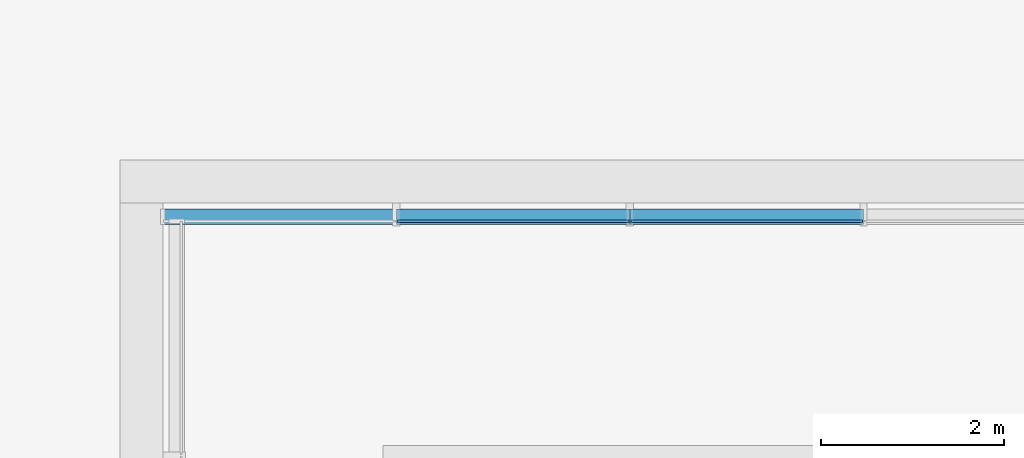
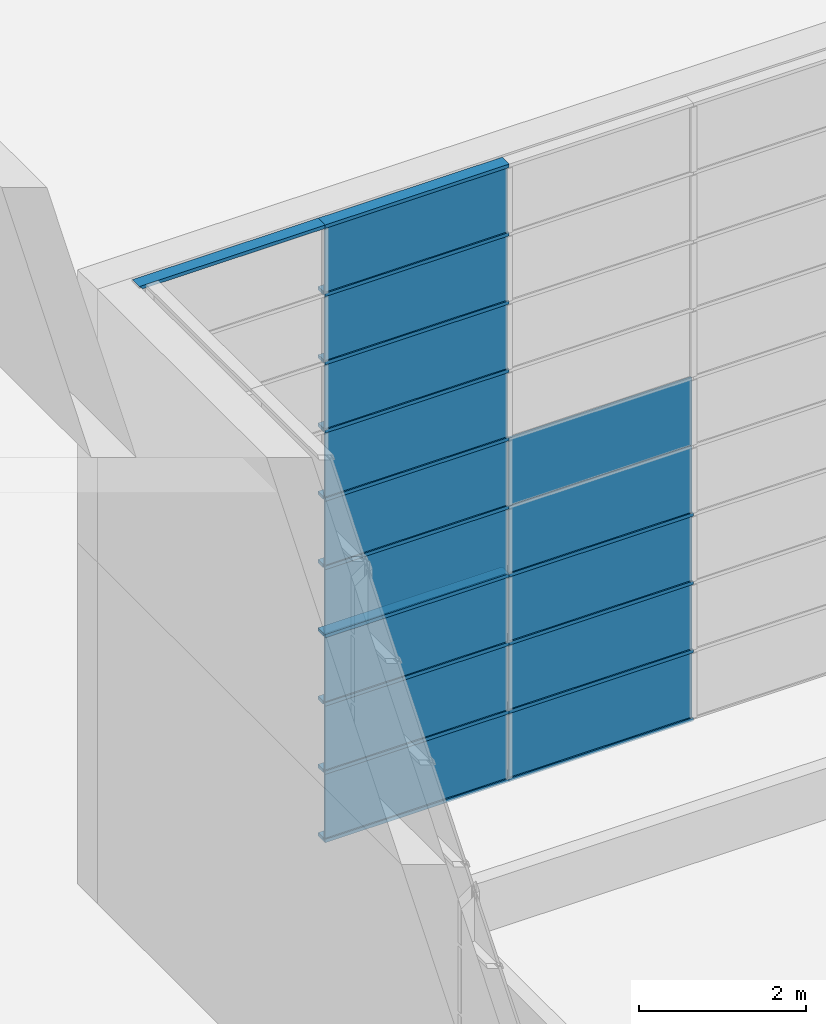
# One storey, part 30 of 105: 31 building element parts, 3 elements without a shape of their own.
"""IFC4 building model written with IfcOpenShell, lengths in millimetres."""

from ifc_helpers import new_model, entity, si_unit, converted_unit, derived_unit, direction, frame, origin_with_axes, place, context, subcontext, project, spatial, triangles, material, element, aggregate, save


model = new_model("IFC4")

# Units and contexts
model_context = context("Model", 3, precision=1e-05, world=origin_with_axes(), true_north=direction((0.0, 1.0)))
body_context = subcontext(model_context, "Body", "Model", "MODEL_VIEW")
ifc_project = project(units=[si_unit("LENGTHUNIT", "METRE", prefix="MILLI"), si_unit("AREAUNIT", "SQUARE_METRE"), si_unit("VOLUMEUNIT", "CUBIC_METRE"), converted_unit("PLANEANGLEUNIT", "DEGREE", entity("IfcLengthMeasure", 0.017453), si_unit("PLANEANGLEUNIT", "RADIAN"), dimensions=[0, 0, 0, 0, 0, 0, 0]), si_unit("SOLIDANGLEUNIT", "STERADIAN"), si_unit("MASSUNIT", "GRAM"), si_unit("TIMEUNIT", "SECOND"), si_unit("THERMODYNAMICTEMPERATUREUNIT", "DEGREE_CELSIUS"), si_unit("LUMINOUSINTENSITYUNIT", "LUMEN"), si_unit("POWERUNIT", "WATT"), derived_unit("THERMALTRANSMITTANCEUNIT", [(si_unit("POWERUNIT", "WATT"), 1), (si_unit("THERMODYNAMICTEMPERATUREUNIT", "KELVIN"), -1), (si_unit("AREAUNIT", "SQUARE_METRE"), -1)])], contexts=[model_context])

# Site, building, storey
site_placement = place(None, origin_with_axes())
site = spatial("IfcSite", under=ifc_project, at=site_placement, Name="Default Site", CompositionType="ELEMENT")
building_placement = place(site_placement, origin_with_axes())
building = spatial("IfcBuilding", under=site, at=building_placement, Name="Default Building", CompositionType="ELEMENT")
storey_placement = place(building_placement, origin_with_axes())
storey = spatial("IfcBuildingStorey", under=building, at=storey_placement, Name="OG - Story", CompositionType="ELEMENT", Elevation=0.0)

# Curtain wall, building element parts
curtain_wall_1_placement = place(storey_placement, origin_with_axes())
curtain_wall_1 = element("IfcCurtainWall", 1, at=curtain_wall_1_placement, inside=storey, Name="Fassade-005", PredefinedType="NOTDEFINED")
ifc_material_1 = material(Name="Normalglas")
building_element_part_1_placement = place(curtain_wall_1_placement, frame((52496.845873, -27789.262838, 3000.0), z_axis=(0.0, 0.0, 1.0), x_axis=(1.0, 0.0, 0.0)))
building_element_part_1 = element("IfcBuildingElementPart", 2, at=building_element_part_1_placement, material=ifc_material_1, Name="Normalglas", PredefinedType="NOTDEFINED", context=body_context, shape_type="Tessellation", body=[
    triangles([(3816.364, 15.0, 995.0), (1285.455, 15.0, 995.0), (1285.455, -14.999, 995.0), (3816.364, -14.999, 995.0), (3816.364, 15.0, 5.0), (1285.455, 15.0, 5.0), (1285.455, -14.999, 5.0), (3816.364, -14.999, 5.0)], [[1, 2, 3], [1, 3, 4], [1, 5, 6], [1, 6, 2], [2, 6, 7], [2, 7, 3], [4, 3, 7], [4, 7, 8], [5, 1, 4], [5, 4, 8], [6, 5, 8], [6, 8, 7]], closed=False),
])
building_element_part_2_placement = place(curtain_wall_1_placement, frame((52496.845873, -27789.262838, 3000.0), z_axis=(0.0, 0.0, 1.0), x_axis=(1.0, 0.0, 0.0)))
building_element_part_2 = element("IfcBuildingElementPart", 3, at=building_element_part_2_placement, material=ifc_material_1, Name="Normalglas", PredefinedType="NOTDEFINED", context=body_context, shape_type="Tessellation", body=[
    triangles([(6367.273, 15.0, 995.0), (3836.364, 15.0, 995.0), (3836.364, -14.999, 995.0), (6367.273, -14.999, 995.0), (6367.273, 15.0, 5.0), (3836.364, 15.0, 5.0), (3836.364, -14.999, 5.0), (6367.273, -14.999, 5.0)], [[1, 2, 3], [1, 3, 4], [1, 5, 6], [1, 6, 2], [2, 6, 7], [2, 7, 3], [4, 3, 7], [4, 7, 8], [5, 1, 4], [5, 4, 8], [6, 5, 8], [6, 8, 7]], closed=False),
])
building_element_part_3_placement = place(curtain_wall_1_placement, frame((52496.845873, -27789.262838, 3000.0), z_axis=(0.0, 0.0, 1.0), x_axis=(1.0, 0.0, 0.0)))
building_element_part_3 = element("IfcBuildingElementPart", 4, at=building_element_part_3_placement, material=ifc_material_1, Name="Normalglas", PredefinedType="NOTDEFINED", context=body_context, shape_type="Tessellation", body=[
    triangles([(3816.364, 15.0, 1995.0), (1285.455, 15.0, 1995.0), (1285.455, -14.999, 1995.0), (3816.364, -14.999, 1995.0), (3816.364, 15.0, 1005.0), (1285.455, 15.0, 1005.0), (1285.455, -14.999, 1005.0), (3816.364, -14.999, 1005.0)], [[1, 2, 3], [1, 3, 4], [1, 5, 6], [1, 6, 2], [2, 6, 7], [2, 7, 3], [4, 3, 7], [4, 7, 8], [5, 1, 4], [5, 4, 8], [6, 5, 8], [6, 8, 7]], closed=False),
])
building_element_part_4_placement = place(curtain_wall_1_placement, frame((52496.845873, -27789.262838, 3000.0), z_axis=(0.0, 0.0, 1.0), x_axis=(1.0, 0.0, 0.0)))
building_element_part_4 = element("IfcBuildingElementPart", 5, at=building_element_part_4_placement, material=ifc_material_1, Name="Normalglas", PredefinedType="NOTDEFINED", context=body_context, shape_type="Tessellation", body=[
    triangles([(6367.273, 15.0, 1995.0), (3836.364, 15.0, 1995.0), (3836.364, -14.999, 1995.0), (6367.273, -14.999, 1995.0), (6367.273, 15.0, 1005.0), (3836.364, 15.0, 1005.0), (3836.364, -14.999, 1005.0), (6367.273, -14.999, 1005.0)], [[1, 2, 3], [1, 3, 4], [1, 5, 6], [1, 6, 2], [2, 6, 7], [2, 7, 3], [4, 3, 7], [4, 7, 8], [5, 1, 4], [5, 4, 8], [6, 5, 8], [6, 8, 7]], closed=False),
])
building_element_part_5_placement = place(curtain_wall_1_placement, frame((52496.845873, -27789.262838, 3000.0), z_axis=(0.0, 0.0, 1.0), x_axis=(1.0, 0.0, 0.0)))
building_element_part_5 = element("IfcBuildingElementPart", 6, at=building_element_part_5_placement, material=ifc_material_1, Name="Normalglas", PredefinedType="NOTDEFINED", context=body_context, shape_type="Tessellation", body=[
    triangles([(3816.364, 15.0, 2995.0), (1285.455, 15.0, 2995.0), (1285.455, -14.999, 2995.0), (3816.364, -14.999, 2995.0), (3816.364, 15.0, 2005.0), (1285.455, 15.0, 2005.0), (1285.455, -14.999, 2005.0), (3816.364, -14.999, 2005.0)], [[1, 2, 3], [1, 3, 4], [1, 5, 6], [1, 6, 2], [2, 6, 7], [2, 7, 3], [4, 3, 7], [4, 7, 8], [5, 1, 4], [5, 4, 8], [6, 5, 8], [6, 8, 7]], closed=False),
])
building_element_part_6_placement = place(curtain_wall_1_placement, frame((52496.845873, -27789.262838, 3000.0), z_axis=(0.0, 0.0, 1.0), x_axis=(1.0, 0.0, 0.0)))
building_element_part_6 = element("IfcBuildingElementPart", 7, at=building_element_part_6_placement, material=ifc_material_1, Name="Normalglas", PredefinedType="NOTDEFINED", context=body_context, shape_type="Tessellation", body=[
    triangles([(6367.273, 15.0, 2995.0), (3836.364, 15.0, 2995.0), (3836.364, -14.999, 2995.0), (6367.273, -14.999, 2995.0), (6367.273, 15.0, 2005.0), (3836.364, 15.0, 2005.0), (3836.364, -14.999, 2005.0), (6367.273, -14.999, 2005.0)], [[1, 2, 3], [1, 3, 4], [1, 5, 6], [1, 6, 2], [2, 6, 7], [2, 7, 3], [4, 3, 7], [4, 7, 8], [5, 1, 4], [5, 4, 8], [6, 5, 8], [6, 8, 7]], closed=False),
])
ifc_material_2 = material(Name="Blech")
building_element_part_7_placement = place(curtain_wall_1_placement, frame((52496.845873, -27789.262838, 3000.0), z_axis=(0.0, 0.0, 1.0), x_axis=(1.0, 0.0, 0.0)))
building_element_part_7 = element("IfcBuildingElementPart", 8, at=building_element_part_7_placement, material=ifc_material_2, Name="Blech", PredefinedType="NOTDEFINED", context=body_context, shape_type="Tessellation", body=[
    triangles([(3826.364, 15.0, 25.0), (3826.364, 133.0, 25.0), (3826.364, 15.0, 5.0), (3826.364, 133.0, -24.999), (3826.364, -14.999, 5.0), (3826.364, -34.999, -24.999), (3826.364, -14.999, 25.0), (3826.364, -34.999, 25.0), (1275.455, 15.0, 5.0), (1275.455, -14.999, 5.0), (1275.455, -14.999, 25.0), (1275.455, -34.999, 25.0), (1275.455, -34.999, -24.999), (1275.455, 133.0, -24.999), (1275.455, 133.0, 25.0), (1275.455, 15.0, 25.0)], [[1, 2, 3], [3, 2, 4], [3, 4, 5], [5, 4, 6], [5, 6, 7], [7, 6, 8], [5, 3, 9], [5, 9, 10], [11, 7, 5], [11, 5, 10], [7, 11, 12], [7, 12, 8], [13, 6, 8], [13, 8, 12], [14, 4, 6], [14, 6, 13], [15, 2, 4], [15, 4, 14], [16, 1, 2], [16, 2, 15], [3, 1, 16], [3, 16, 9], [16, 15, 9], [9, 15, 14], [9, 14, 10], [10, 14, 13], [10, 13, 11], [11, 13, 12]], closed=False),
])
building_element_part_8_placement = place(curtain_wall_1_placement, frame((52496.845873, -27789.262838, 3000.0), z_axis=(0.0, 0.0, 1.0), x_axis=(1.0, 0.0, 0.0)))
building_element_part_8 = element("IfcBuildingElementPart", 9, at=building_element_part_8_placement, material=ifc_material_2, Name="Blech", PredefinedType="NOTDEFINED", context=body_context, shape_type="Tessellation", body=[
    triangles([(6377.273, 15.0, 25.0), (6377.273, 133.0, 25.0), (6377.273, 15.0, 5.0), (6377.273, 133.0, -24.999), (6377.273, -14.999, 5.0), (6377.273, -34.999, -24.999), (6377.273, -14.999, 25.0), (6377.273, -34.999, 25.0), (3826.364, 15.0, 5.0), (3826.364, -14.999, 5.0), (3826.364, -14.999, 25.0), (3826.364, -34.999, 25.0), (3826.364, -34.999, -24.999), (3826.364, 133.0, -24.999), (3826.364, 133.0, 25.0), (3826.364, 15.0, 25.0)], [[1, 2, 3], [3, 2, 4], [3, 4, 5], [5, 4, 6], [5, 6, 7], [7, 6, 8], [5, 3, 9], [5, 9, 10], [11, 7, 5], [11, 5, 10], [7, 11, 12], [7, 12, 8], [13, 6, 8], [13, 8, 12], [14, 4, 6], [14, 6, 13], [15, 2, 4], [15, 4, 14], [16, 1, 2], [16, 2, 15], [3, 1, 16], [3, 16, 9], [16, 15, 9], [9, 15, 14], [9, 14, 10], [10, 14, 13], [10, 13, 11], [11, 13, 12]], closed=False),
])
building_element_part_9_placement = place(curtain_wall_1_placement, frame((52496.845873, -27789.262838, 3000.0), z_axis=(0.0, 0.0, 1.0), x_axis=(1.0, 0.0, 0.0)))
building_element_part_9 = element("IfcBuildingElementPart", 10, at=building_element_part_9_placement, material=ifc_material_2, Name="Blech", PredefinedType="NOTDEFINED", context=body_context, shape_type="Tessellation", body=[
    triangles([(3826.364, 133.0, 1025.0), (3826.364, 15.0, 1025.0), (3826.364, 133.0, 975.0), (3826.364, 15.0, 1005.0), (3826.364, 15.0, 995.0), (3826.364, -14.999, 1005.0), (3826.364, -14.999, 995.0), (3826.364, -14.999, 975.0), (3826.364, -14.999, 1025.0), (3826.364, -34.999, 1025.0), (3826.364, -34.999, 975.0), (3826.364, 15.0, 975.0), (1275.455, 15.0, 995.0), (1275.455, 15.0, 975.0), (1275.455, 133.0, 975.0), (1275.455, 133.0, 1025.0), (1275.455, 15.0, 1025.0), (1275.455, 15.0, 1005.0), (1275.455, -14.999, 1005.0), (1275.455, -14.999, 1025.0), (1275.455, -34.999, 1025.0), (1275.455, -34.999, 975.0), (1275.455, -14.999, 975.0), (1275.455, -14.999, 995.0)], [[1, 2, 3], [3, 2, 4], [3, 4, 5], [5, 4, 6], [5, 6, 7], [8, 9, 10], [8, 10, 11], [3, 5, 12], [12, 5, 13], [12, 13, 14], [12, 14, 15], [12, 15, 3], [1, 3, 15], [1, 15, 16], [2, 1, 16], [2, 16, 17], [2, 17, 18], [2, 18, 4], [4, 18, 19], [4, 19, 6], [9, 6, 19], [9, 19, 20], [20, 21, 10], [20, 10, 9], [11, 10, 21], [11, 21, 22], [23, 8, 11], [23, 11, 22], [7, 8, 23], [7, 23, 24], [5, 7, 24], [5, 24, 13], [15, 14, 16], [16, 14, 13], [16, 13, 18], [18, 13, 24], [18, 24, 19], [20, 23, 22], [20, 22, 21], [16, 18, 17]], closed=False),
])
building_element_part_10_placement = place(curtain_wall_1_placement, frame((52496.845873, -27789.262838, 3000.0), z_axis=(0.0, 0.0, 1.0), x_axis=(1.0, 0.0, 0.0)))
building_element_part_10 = element("IfcBuildingElementPart", 11, at=building_element_part_10_placement, material=ifc_material_2, Name="Blech", PredefinedType="NOTDEFINED", context=body_context, shape_type="Tessellation", body=[
    triangles([(6377.273, 133.0, 1025.0), (6377.273, 15.0, 1025.0), (6377.273, 133.0, 975.0), (6377.273, 15.0, 1005.0), (6377.273, 15.0, 995.0), (6377.273, -14.999, 1005.0), (6377.273, -14.999, 995.0), (6377.273, -14.999, 975.0), (6377.273, -14.999, 1025.0), (6377.273, -34.999, 1025.0), (6377.273, -34.999, 975.0), (6377.273, 15.0, 975.0), (3826.364, 15.0, 995.0), (3826.364, 15.0, 975.0), (3826.364, 133.0, 975.0), (3826.364, 133.0, 1025.0), (3826.364, 15.0, 1025.0), (3826.364, 15.0, 1005.0), (3826.364, -14.999, 1005.0), (3826.364, -14.999, 1025.0), (3826.364, -34.999, 1025.0), (3826.364, -34.999, 975.0), (3826.364, -14.999, 975.0), (3826.364, -14.999, 995.0)], [[1, 2, 3], [3, 2, 4], [3, 4, 5], [5, 4, 6], [5, 6, 7], [8, 9, 10], [8, 10, 11], [3, 5, 12], [12, 5, 13], [12, 13, 14], [12, 14, 15], [12, 15, 3], [1, 3, 15], [1, 15, 16], [2, 1, 16], [2, 16, 17], [2, 17, 18], [2, 18, 4], [4, 18, 19], [4, 19, 6], [9, 6, 19], [9, 19, 20], [20, 21, 10], [20, 10, 9], [11, 10, 21], [11, 21, 22], [23, 8, 11], [23, 11, 22], [7, 8, 23], [7, 23, 24], [5, 7, 24], [5, 24, 13], [15, 14, 16], [16, 14, 13], [16, 13, 18], [18, 13, 24], [18, 24, 19], [20, 23, 22], [20, 22, 21], [16, 18, 17]], closed=False),
])
building_element_part_11_placement = place(curtain_wall_1_placement, frame((52496.845873, -27789.262838, 3000.0), z_axis=(0.0, 0.0, 1.0), x_axis=(1.0, 0.0, 0.0)))
building_element_part_11 = element("IfcBuildingElementPart", 12, at=building_element_part_11_placement, material=ifc_material_2, Name="Blech", PredefinedType="NOTDEFINED", context=body_context, shape_type="Tessellation", body=[
    triangles([(3826.364, 133.0, 2025.0), (3826.364, 15.0, 2025.0), (3826.364, 133.0, 1975.0), (3826.364, 15.0, 2005.0), (3826.364, 15.0, 1995.0), (3826.364, -14.999, 2005.0), (3826.364, -14.999, 1995.0), (3826.364, -14.999, 1975.0), (3826.364, -14.999, 2025.0), (3826.364, -34.999, 2025.0), (3826.364, -34.999, 1975.0), (3826.364, 15.0, 1975.0), (1275.455, 15.0, 1995.0), (1275.455, 15.0, 1975.0), (1275.455, 133.0, 1975.0), (1275.455, 133.0, 2025.0), (1275.455, 15.0, 2025.0), (1275.455, 15.0, 2005.0), (1275.455, -14.999, 2005.0), (1275.455, -14.999, 2025.0), (1275.455, -34.999, 2025.0), (1275.455, -34.999, 1975.0), (1275.455, -14.999, 1975.0), (1275.455, -14.999, 1995.0)], [[1, 2, 3], [3, 2, 4], [3, 4, 5], [5, 4, 6], [5, 6, 7], [8, 9, 10], [8, 10, 11], [3, 5, 12], [12, 5, 13], [12, 13, 14], [12, 14, 15], [12, 15, 3], [1, 3, 15], [1, 15, 16], [2, 1, 16], [2, 16, 17], [2, 17, 18], [2, 18, 4], [4, 18, 19], [4, 19, 6], [9, 6, 19], [9, 19, 20], [20, 21, 10], [20, 10, 9], [11, 10, 21], [11, 21, 22], [23, 8, 11], [23, 11, 22], [7, 8, 23], [7, 23, 24], [5, 7, 24], [5, 24, 13], [15, 14, 16], [16, 14, 13], [16, 13, 18], [18, 13, 24], [18, 24, 19], [20, 23, 22], [20, 22, 21], [16, 18, 17]], closed=False),
])
building_element_part_12_placement = place(curtain_wall_1_placement, frame((52496.845873, -27789.262838, 3000.0), z_axis=(0.0, 0.0, 1.0), x_axis=(1.0, 0.0, 0.0)))
building_element_part_12 = element("IfcBuildingElementPart", 13, at=building_element_part_12_placement, material=ifc_material_2, Name="Blech", PredefinedType="NOTDEFINED", context=body_context, shape_type="Tessellation", body=[
    triangles([(3826.364, 15.0, 2975.0), (3826.364, 133.0, 2975.0), (3826.364, 15.0, 2995.0), (3826.364, 133.0, 3025.0), (3826.364, -14.999, 2995.0), (3826.364, -34.999, 3025.0), (3826.364, -14.999, 2975.0), (3826.364, -34.999, 2975.0), (1275.455, 15.0, 2995.0), (1275.455, 15.0, 2975.0), (1275.455, 133.0, 2975.0), (1275.455, 133.0, 3025.0), (1275.455, -34.999, 3025.0), (1275.455, -34.999, 2975.0), (1275.455, -14.999, 2975.0), (1275.455, -14.999, 2995.0)], [[1, 2, 3], [3, 2, 4], [3, 4, 5], [5, 4, 6], [5, 6, 7], [7, 6, 8], [3, 9, 10], [3, 10, 1], [10, 11, 2], [10, 2, 1], [11, 12, 4], [11, 4, 2], [12, 13, 6], [12, 6, 4], [13, 14, 8], [13, 8, 6], [7, 8, 14], [7, 14, 15], [15, 16, 5], [15, 5, 7], [5, 16, 9], [5, 9, 3], [10, 11, 9], [9, 11, 12], [9, 12, 16], [16, 12, 13], [16, 13, 15], [15, 13, 14]], closed=False),
])
building_element_part_13_placement = place(curtain_wall_1_placement, frame((52496.845873, -27789.262838, 3000.0), z_axis=(0.0, 0.0, 1.0), x_axis=(1.0, 0.0, 0.0)))
building_element_part_13 = element("IfcBuildingElementPart", 14, at=building_element_part_13_placement, material=ifc_material_2, Name="Blech", PredefinedType="NOTDEFINED", context=body_context, shape_type="Tessellation", body=[
    triangles([(6377.273, 133.0, 2025.0), (6377.273, 15.0, 2025.0), (6377.273, 133.0, 1975.0), (6377.273, 15.0, 2005.0), (6377.273, 15.0, 1995.0), (6377.273, -14.999, 2005.0), (6377.273, -14.999, 1995.0), (6377.273, -14.999, 1975.0), (6377.273, -14.999, 2025.0), (6377.273, -34.999, 2025.0), (6377.273, -34.999, 1975.0), (6377.273, 15.0, 1975.0), (3826.364, 15.0, 1995.0), (3826.364, 15.0, 1975.0), (3826.364, 133.0, 1975.0), (3826.364, 133.0, 2025.0), (3826.364, 15.0, 2025.0), (3826.364, 15.0, 2005.0), (3826.364, -14.999, 2005.0), (3826.364, -14.999, 2025.0), (3826.364, -34.999, 2025.0), (3826.364, -34.999, 1975.0), (3826.364, -14.999, 1975.0), (3826.364, -14.999, 1995.0)], [[1, 2, 3], [3, 2, 4], [3, 4, 5], [5, 4, 6], [5, 6, 7], [8, 9, 10], [8, 10, 11], [3, 5, 12], [12, 5, 13], [12, 13, 14], [12, 14, 15], [12, 15, 3], [1, 3, 15], [1, 15, 16], [2, 1, 16], [2, 16, 17], [2, 17, 18], [2, 18, 4], [4, 18, 19], [4, 19, 6], [9, 6, 19], [9, 19, 20], [20, 21, 10], [20, 10, 9], [11, 10, 21], [11, 21, 22], [23, 8, 11], [23, 11, 22], [7, 8, 23], [7, 23, 24], [5, 7, 24], [5, 24, 13], [15, 14, 16], [16, 14, 13], [16, 13, 18], [18, 13, 24], [18, 24, 19], [20, 23, 22], [20, 22, 21], [16, 18, 17]], closed=False),
])
building_element_part_14_placement = place(curtain_wall_1_placement, frame((52496.845873, -27789.262838, 3000.0), z_axis=(0.0, 0.0, 1.0), x_axis=(1.0, 0.0, 0.0)))
building_element_part_14 = element("IfcBuildingElementPart", 15, at=building_element_part_14_placement, material=ifc_material_2, Name="Blech", PredefinedType="NOTDEFINED", context=body_context, shape_type="Tessellation", body=[
    triangles([(6377.273, 15.0, 2975.0), (6377.273, 133.0, 2975.0), (6377.273, 15.0, 2995.0), (6377.273, 133.0, 3025.0), (6377.273, -14.999, 2995.0), (6377.273, -34.999, 3025.0), (6377.273, -14.999, 2975.0), (6377.273, -34.999, 2975.0), (3826.364, 15.0, 2995.0), (3826.364, 15.0, 2975.0), (3826.364, 133.0, 2975.0), (3826.364, 133.0, 3025.0), (3826.364, -34.999, 3025.0), (3826.364, -34.999, 2975.0), (3826.364, -14.999, 2975.0), (3826.364, -14.999, 2995.0)], [[1, 2, 3], [3, 2, 4], [3, 4, 5], [5, 4, 6], [5, 6, 7], [7, 6, 8], [3, 9, 10], [3, 10, 1], [10, 11, 2], [10, 2, 1], [11, 12, 4], [11, 4, 2], [12, 13, 6], [12, 6, 4], [13, 14, 8], [13, 8, 6], [7, 8, 14], [7, 14, 15], [15, 16, 5], [15, 5, 7], [5, 16, 9], [5, 9, 3], [10, 11, 9], [9, 11, 12], [9, 12, 16], [16, 12, 13], [16, 13, 15], [15, 13, 14]], closed=False),
])
aggregate(curtain_wall_1, [building_element_part_1, building_element_part_2, building_element_part_3, building_element_part_4, building_element_part_5, building_element_part_6, building_element_part_7, building_element_part_8, building_element_part_9, building_element_part_10, building_element_part_11, building_element_part_12, building_element_part_13, building_element_part_14])

curtain_wall_2_placement = place(storey_placement, origin_with_axes())
curtain_wall_2 = element("IfcCurtainWall", 16, at=curtain_wall_2_placement, inside=storey, Name="Fassade-005", PredefinedType="NOTDEFINED")
building_element_part_15_placement = place(curtain_wall_2_placement, frame((52496.845873, -27789.262838, 6000.0), z_axis=(0.0, 0.0, 1.0), x_axis=(1.0, 0.0, 0.0)))
building_element_part_15 = element("IfcBuildingElementPart", 17, at=building_element_part_15_placement, material=ifc_material_1, Name="Normalglas", PredefinedType="NOTDEFINED", context=body_context, shape_type="Tessellation", body=[
    triangles([(3816.364, 15.0, 995.0), (1285.455, 15.0, 995.0), (1285.455, -14.999, 995.0), (3816.364, -14.999, 995.0), (3816.364, 15.0, 5.0), (1285.455, 15.0, 5.0), (1285.455, -14.999, 5.0), (3816.364, -14.999, 5.0)], [[1, 2, 3], [1, 3, 4], [1, 5, 6], [1, 6, 2], [2, 6, 7], [2, 7, 3], [4, 3, 7], [4, 7, 8], [5, 1, 4], [5, 4, 8], [6, 5, 8], [6, 8, 7]], closed=False),
])
building_element_part_16_placement = place(curtain_wall_2_placement, frame((52496.845873, -27789.262838, 6000.0), z_axis=(0.0, 0.0, 1.0), x_axis=(1.0, 0.0, 0.0)))
building_element_part_16 = element("IfcBuildingElementPart", 18, at=building_element_part_16_placement, material=ifc_material_1, Name="Normalglas", PredefinedType="NOTDEFINED", context=body_context, shape_type="Tessellation", body=[
    triangles([(6367.273, 15.0, 995.0), (3836.364, 15.0, 995.0), (3836.364, -14.999, 995.0), (6367.273, -14.999, 995.0), (6367.273, 15.0, 5.0), (3836.364, 15.0, 5.0), (3836.364, -14.999, 5.0), (6367.273, -14.999, 5.0)], [[1, 2, 3], [1, 3, 4], [1, 5, 6], [1, 6, 2], [2, 6, 7], [2, 7, 3], [4, 3, 7], [4, 7, 8], [5, 1, 4], [5, 4, 8], [6, 5, 8], [6, 8, 7]], closed=False),
])
building_element_part_17_placement = place(curtain_wall_2_placement, frame((52496.845873, -27789.262838, 6000.0), z_axis=(0.0, 0.0, 1.0), x_axis=(1.0, 0.0, 0.0)))
building_element_part_17 = element("IfcBuildingElementPart", 19, at=building_element_part_17_placement, material=ifc_material_1, Name="Normalglas", PredefinedType="NOTDEFINED", context=body_context, shape_type="Tessellation", body=[
    triangles([(3816.364, 15.0, 1995.0), (1285.455, 15.0, 1995.0), (1285.455, -14.999, 1995.0), (3816.364, -14.999, 1995.0), (3816.364, 15.0, 1005.0), (1285.455, 15.0, 1005.0), (1285.455, -14.999, 1005.0), (3816.364, -14.999, 1005.0)], [[1, 2, 3], [1, 3, 4], [1, 5, 6], [1, 6, 2], [2, 6, 7], [2, 7, 3], [4, 3, 7], [4, 7, 8], [5, 1, 4], [5, 4, 8], [6, 5, 8], [6, 8, 7]], closed=False),
])
building_element_part_18_placement = place(curtain_wall_2_placement, frame((52496.845873, -27789.262838, 6000.0), z_axis=(0.0, 0.0, 1.0), x_axis=(1.0, 0.0, 0.0)))
building_element_part_18 = element("IfcBuildingElementPart", 20, at=building_element_part_18_placement, material=ifc_material_1, Name="Normalglas", PredefinedType="NOTDEFINED", context=body_context, shape_type="Tessellation", body=[
    triangles([(6367.273, 15.0, 1995.0), (3836.364, 15.0, 1995.0), (3836.364, -14.999, 1995.0), (6367.273, -14.999, 1995.0), (6367.273, 15.0, 1005.0), (3836.364, 15.0, 1005.0), (3836.364, -14.999, 1005.0), (6367.273, -14.999, 1005.0)], [[1, 2, 3], [1, 3, 4], [1, 5, 6], [1, 6, 2], [2, 6, 7], [2, 7, 3], [4, 3, 7], [4, 7, 8], [5, 1, 4], [5, 4, 8], [6, 5, 8], [6, 8, 7]], closed=False),
])
building_element_part_19_placement = place(curtain_wall_2_placement, frame((52496.845873, -27789.262838, 6000.0), z_axis=(0.0, 0.0, 1.0), x_axis=(1.0, 0.0, 0.0)))
building_element_part_19 = element("IfcBuildingElementPart", 21, at=building_element_part_19_placement, material=ifc_material_1, Name="Normalglas", PredefinedType="NOTDEFINED", context=body_context, shape_type="Tessellation", body=[
    triangles([(3816.364, 15.0, 2995.0), (1285.455, 15.0, 2995.0), (1285.455, -14.999, 2995.0), (3816.364, -14.999, 2995.0), (3816.364, 15.0, 2005.0), (1285.455, 15.0, 2005.0), (1285.455, -14.999, 2005.0), (3816.364, -14.999, 2005.0)], [[1, 2, 3], [1, 3, 4], [1, 5, 6], [1, 6, 2], [2, 6, 7], [2, 7, 3], [4, 3, 7], [4, 7, 8], [5, 1, 4], [5, 4, 8], [6, 5, 8], [6, 8, 7]], closed=False),
])
building_element_part_20_placement = place(curtain_wall_2_placement, frame((52496.845873, -27789.262838, 6000.0), z_axis=(0.0, 0.0, 1.0), x_axis=(1.0, 0.0, 0.0)))
building_element_part_20 = element("IfcBuildingElementPart", 22, at=building_element_part_20_placement, material=ifc_material_2, Name="Blech", PredefinedType="NOTDEFINED", context=body_context, shape_type="Tessellation", body=[
    triangles([(3826.364, 15.0, 25.0), (3826.364, 133.0, 25.0), (3826.364, 15.0, 5.0), (3826.364, 133.0, -24.999), (3826.364, -14.999, 5.0), (3826.364, -34.999, -24.999), (3826.364, -14.999, 25.0), (3826.364, -34.999, 25.0), (1275.455, 15.0, 5.0), (1275.455, -14.999, 5.0), (1275.455, -14.999, 25.0), (1275.455, -34.999, 25.0), (1275.455, -34.999, -24.999), (1275.455, 133.0, -24.999), (1275.455, 133.0, 25.0), (1275.455, 15.0, 25.0)], [[1, 2, 3], [3, 2, 4], [3, 4, 5], [5, 4, 6], [5, 6, 7], [7, 6, 8], [5, 3, 9], [5, 9, 10], [11, 7, 5], [11, 5, 10], [7, 11, 12], [7, 12, 8], [13, 6, 8], [13, 8, 12], [14, 4, 6], [14, 6, 13], [15, 2, 4], [15, 4, 14], [16, 1, 2], [16, 2, 15], [3, 1, 16], [3, 16, 9], [16, 15, 9], [9, 15, 14], [9, 14, 10], [10, 14, 13], [10, 13, 11], [11, 13, 12]], closed=False),
])
building_element_part_21_placement = place(curtain_wall_2_placement, frame((52496.845873, -27789.262838, 6000.0), z_axis=(0.0, 0.0, 1.0), x_axis=(1.0, 0.0, 0.0)))
building_element_part_21 = element("IfcBuildingElementPart", 23, at=building_element_part_21_placement, material=ifc_material_2, Name="Blech", PredefinedType="NOTDEFINED", context=body_context, shape_type="Tessellation", body=[
    triangles([(3826.364, 133.0, 1025.0), (3826.364, 15.0, 1025.0), (3826.364, 133.0, 975.0), (3826.364, 15.0, 1005.0), (3826.364, 15.0, 995.0), (3826.364, -14.999, 1005.0), (3826.364, -14.999, 995.0), (3826.364, -14.999, 975.0), (3826.364, -14.999, 1025.0), (3826.364, -34.999, 1025.0), (3826.364, -34.999, 975.0), (3826.364, 15.0, 975.0), (1275.455, 15.0, 995.0), (1275.455, 15.0, 975.0), (1275.455, 133.0, 975.0), (1275.455, 133.0, 1025.0), (1275.455, 15.0, 1025.0), (1275.455, 15.0, 1005.0), (1275.455, -14.999, 1005.0), (1275.455, -14.999, 1025.0), (1275.455, -34.999, 1025.0), (1275.455, -34.999, 975.0), (1275.455, -14.999, 975.0), (1275.455, -14.999, 995.0)], [[1, 2, 3], [3, 2, 4], [3, 4, 5], [5, 4, 6], [5, 6, 7], [8, 9, 10], [8, 10, 11], [3, 5, 12], [12, 5, 13], [12, 13, 14], [12, 14, 15], [12, 15, 3], [1, 3, 15], [1, 15, 16], [2, 1, 16], [2, 16, 17], [2, 17, 18], [2, 18, 4], [4, 18, 19], [4, 19, 6], [9, 6, 19], [9, 19, 20], [20, 21, 10], [20, 10, 9], [11, 10, 21], [11, 21, 22], [23, 8, 11], [23, 11, 22], [7, 8, 23], [7, 23, 24], [5, 7, 24], [5, 24, 13], [15, 14, 16], [16, 14, 13], [16, 13, 18], [18, 13, 24], [18, 24, 19], [20, 23, 22], [20, 22, 21], [16, 18, 17]], closed=False),
])
building_element_part_22_placement = place(curtain_wall_2_placement, frame((52496.845873, -27789.262838, 6000.0), z_axis=(0.0, 0.0, 1.0), x_axis=(1.0, 0.0, 0.0)))
building_element_part_22 = element("IfcBuildingElementPart", 24, at=building_element_part_22_placement, material=ifc_material_2, Name="Blech", PredefinedType="NOTDEFINED", context=body_context, shape_type="Tessellation", body=[
    triangles([(3826.364, 133.0, 2025.0), (3826.364, 15.0, 2025.0), (3826.364, 133.0, 1975.0), (3826.364, 15.0, 2005.0), (3826.364, 15.0, 1995.0), (3826.364, -14.999, 2005.0), (3826.364, -14.999, 1995.0), (3826.364, -14.999, 1975.0), (3826.364, -14.999, 2025.0), (3826.364, -34.999, 2025.0), (3826.364, -34.999, 1975.0), (3826.364, 15.0, 1975.0), (1275.455, 15.0, 1995.0), (1275.455, 15.0, 1975.0), (1275.455, 133.0, 1975.0), (1275.455, 133.0, 2025.0), (1275.455, 15.0, 2025.0), (1275.455, 15.0, 2005.0), (1275.455, -14.999, 2005.0), (1275.455, -14.999, 2025.0), (1275.455, -34.999, 2025.0), (1275.455, -34.999, 1975.0), (1275.455, -14.999, 1975.0), (1275.455, -14.999, 1995.0)], [[1, 2, 3], [3, 2, 4], [3, 4, 5], [5, 4, 6], [5, 6, 7], [8, 9, 10], [8, 10, 11], [3, 5, 12], [12, 5, 13], [12, 13, 14], [12, 14, 15], [12, 15, 3], [1, 3, 15], [1, 15, 16], [2, 1, 16], [2, 16, 17], [2, 17, 18], [2, 18, 4], [4, 18, 19], [4, 19, 6], [9, 6, 19], [9, 19, 20], [20, 21, 10], [20, 10, 9], [11, 10, 21], [11, 21, 22], [23, 8, 11], [23, 11, 22], [7, 8, 23], [7, 23, 24], [5, 7, 24], [5, 24, 13], [15, 14, 16], [16, 14, 13], [16, 13, 18], [18, 13, 24], [18, 24, 19], [20, 23, 22], [20, 22, 21], [16, 18, 17]], closed=False),
])
building_element_part_23_placement = place(curtain_wall_2_placement, frame((52496.845873, -27789.262838, 6000.0), z_axis=(0.0, 0.0, 1.0), x_axis=(1.0, 0.0, 0.0)))
building_element_part_23 = element("IfcBuildingElementPart", 25, at=building_element_part_23_placement, material=ifc_material_2, Name="Blech", PredefinedType="NOTDEFINED", context=body_context, shape_type="Tessellation", body=[
    triangles([(3826.364, 15.0, 2975.0), (3826.364, 133.0, 2975.0), (3826.364, 15.0, 2995.0), (3826.364, 133.0, 3025.0), (3826.364, -14.999, 2995.0), (3826.364, -34.999, 3025.0), (3826.364, -14.999, 2975.0), (3826.364, -34.999, 2975.0), (1275.455, 15.0, 2995.0), (1275.455, 15.0, 2975.0), (1275.455, 133.0, 2975.0), (1275.455, 133.0, 3025.0), (1275.455, -34.999, 3025.0), (1275.455, -34.999, 2975.0), (1275.455, -14.999, 2975.0), (1275.455, -14.999, 2995.0)], [[1, 2, 3], [3, 2, 4], [3, 4, 5], [5, 4, 6], [5, 6, 7], [7, 6, 8], [3, 9, 10], [3, 10, 1], [10, 11, 2], [10, 2, 1], [11, 12, 4], [11, 4, 2], [12, 13, 6], [12, 6, 4], [13, 14, 8], [13, 8, 6], [7, 8, 14], [7, 14, 15], [15, 16, 5], [15, 5, 7], [5, 16, 9], [5, 9, 3], [10, 11, 9], [9, 11, 12], [9, 12, 16], [16, 12, 13], [16, 13, 15], [15, 13, 14]], closed=False),
])
aggregate(curtain_wall_2, [building_element_part_15, building_element_part_16, building_element_part_17, building_element_part_18, building_element_part_19, building_element_part_20, building_element_part_21, building_element_part_22, building_element_part_23])

curtain_wall_3_placement = place(storey_placement, origin_with_axes())
curtain_wall_3 = element("IfcCurtainWall", 26, at=curtain_wall_3_placement, inside=storey, Name="Fassade-005", PredefinedType="NOTDEFINED")
building_element_part_24_placement = place(curtain_wall_3_placement, frame((52496.845873, -27789.262838, 9000.0), z_axis=(0.0, 0.0, 1.0), x_axis=(1.0, 0.0, 0.0)))
building_element_part_24 = element("IfcBuildingElementPart", 27, at=building_element_part_24_placement, material=ifc_material_1, Name="Normalglas", PredefinedType="NOTDEFINED", context=body_context, shape_type="Tessellation", body=[
    triangles([(3816.364, 15.0, 995.0), (1285.455, 15.0, 995.0), (1285.455, -14.999, 995.0), (3816.364, -14.999, 995.0), (3816.364, 15.0, 5.0), (1285.455, 15.0, 5.0), (1285.455, -14.999, 5.0), (3816.364, -14.999, 5.0)], [[1, 2, 3], [1, 3, 4], [1, 5, 6], [1, 6, 2], [2, 6, 7], [2, 7, 3], [4, 3, 7], [4, 7, 8], [5, 1, 4], [5, 4, 8], [6, 5, 8], [6, 8, 7]], closed=False),
])
building_element_part_25_placement = place(curtain_wall_3_placement, frame((52496.845873, -27789.262838, 9000.0), z_axis=(0.0, 0.0, 1.0), x_axis=(1.0, 0.0, 0.0)))
building_element_part_25 = element("IfcBuildingElementPart", 28, at=building_element_part_25_placement, material=ifc_material_1, Name="Normalglas", PredefinedType="NOTDEFINED", context=body_context, shape_type="Tessellation", body=[
    triangles([(3816.364, 15.0, 1995.0), (1285.455, 15.0, 1995.0), (1285.455, -14.999, 1995.0), (3816.364, -14.999, 1995.0), (3816.364, 15.0, 1005.0), (1285.455, 15.0, 1005.0), (1285.455, -14.999, 1005.0), (3816.364, -14.999, 1005.0)], [[1, 2, 3], [1, 3, 4], [1, 5, 6], [1, 6, 2], [2, 6, 7], [2, 7, 3], [4, 3, 7], [4, 7, 8], [5, 1, 4], [5, 4, 8], [6, 5, 8], [6, 8, 7]], closed=False),
])
building_element_part_26_placement = place(curtain_wall_3_placement, frame((52496.845873, -27789.262838, 9000.0), z_axis=(0.0, 0.0, 1.0), x_axis=(1.0, 0.0, 0.0)))
building_element_part_26 = element("IfcBuildingElementPart", 29, at=building_element_part_26_placement, material=ifc_material_1, Name="Normalglas", PredefinedType="NOTDEFINED", context=body_context, shape_type="Tessellation", body=[
    triangles([(3816.364, 15.0, 2995.0), (1285.455, 15.0, 2995.0), (1285.455, -14.999, 2995.0), (3816.364, -14.999, 2995.0), (3816.364, 15.0, 2005.0), (1285.455, 15.0, 2005.0), (1285.455, -14.999, 2005.0), (3816.364, -14.999, 2005.0)], [[1, 2, 3], [1, 3, 4], [1, 5, 6], [1, 6, 2], [2, 6, 7], [2, 7, 3], [4, 3, 7], [4, 7, 8], [5, 1, 4], [5, 4, 8], [6, 5, 8], [6, 8, 7]], closed=False),
])
building_element_part_27_placement = place(curtain_wall_3_placement, frame((52496.845873, -27789.262838, 9000.0), z_axis=(0.0, 0.0, 1.0), x_axis=(1.0, 0.0, 0.0)))
building_element_part_27 = element("IfcBuildingElementPart", 30, at=building_element_part_27_placement, material=ifc_material_2, Name="Blech", PredefinedType="NOTDEFINED", context=body_context, shape_type="Tessellation", body=[
    triangles([(3826.364, 15.0, 25.0), (3826.364, 133.0, 25.0), (3826.364, 15.0, 5.0), (3826.364, 133.0, -24.999), (3826.364, -14.999, 5.0), (3826.364, -34.999, -24.999), (3826.364, -14.999, 25.0), (3826.364, -34.999, 25.0), (1275.455, 15.0, 5.0), (1275.455, -14.999, 5.0), (1275.455, -14.999, 25.0), (1275.455, -34.999, 25.0), (1275.455, -34.999, -24.999), (1275.455, 133.0, -24.999), (1275.455, 133.0, 25.0), (1275.455, 15.0, 25.0)], [[1, 2, 3], [3, 2, 4], [3, 4, 5], [5, 4, 6], [5, 6, 7], [7, 6, 8], [5, 3, 9], [5, 9, 10], [11, 7, 5], [11, 5, 10], [7, 11, 12], [7, 12, 8], [13, 6, 8], [13, 8, 12], [14, 4, 6], [14, 6, 13], [15, 2, 4], [15, 4, 14], [16, 1, 2], [16, 2, 15], [3, 1, 16], [3, 16, 9], [16, 15, 9], [9, 15, 14], [9, 14, 10], [10, 14, 13], [10, 13, 11], [11, 13, 12]], closed=False),
])
building_element_part_28_placement = place(curtain_wall_3_placement, frame((52496.845873, -27789.262838, 9000.0), z_axis=(0.0, 0.0, 1.0), x_axis=(1.0, 0.0, 0.0)))
building_element_part_28 = element("IfcBuildingElementPart", 31, at=building_element_part_28_placement, material=ifc_material_2, Name="Blech", PredefinedType="NOTDEFINED", context=body_context, shape_type="Tessellation", body=[
    triangles([(3826.364, 133.0, 1025.0), (3826.364, 15.0, 1025.0), (3826.364, 133.0, 975.0), (3826.364, 15.0, 1005.0), (3826.364, 15.0, 995.0), (3826.364, -14.999, 1005.0), (3826.364, -14.999, 995.0), (3826.364, -14.999, 975.0), (3826.364, -14.999, 1025.0), (3826.364, -34.999, 1025.0), (3826.364, -34.999, 975.0), (3826.364, 15.0, 975.0), (1275.455, 15.0, 995.0), (1275.455, 15.0, 975.0), (1275.455, 133.0, 975.0), (1275.455, 133.0, 1025.0), (1275.455, 15.0, 1025.0), (1275.455, 15.0, 1005.0), (1275.455, -14.999, 1005.0), (1275.455, -14.999, 1025.0), (1275.455, -34.999, 1025.0), (1275.455, -34.999, 975.0), (1275.455, -14.999, 975.0), (1275.455, -14.999, 995.0)], [[1, 2, 3], [3, 2, 4], [3, 4, 5], [5, 4, 6], [5, 6, 7], [8, 9, 10], [8, 10, 11], [3, 5, 12], [12, 5, 13], [12, 13, 14], [12, 14, 15], [12, 15, 3], [1, 3, 15], [1, 15, 16], [2, 1, 16], [2, 16, 17], [2, 17, 18], [2, 18, 4], [4, 18, 19], [4, 19, 6], [9, 6, 19], [9, 19, 20], [20, 21, 10], [20, 10, 9], [11, 10, 21], [11, 21, 22], [23, 8, 11], [23, 11, 22], [7, 8, 23], [7, 23, 24], [5, 7, 24], [5, 24, 13], [15, 14, 16], [16, 14, 13], [16, 13, 18], [18, 13, 24], [18, 24, 19], [20, 23, 22], [20, 22, 21], [16, 18, 17]], closed=False),
])
building_element_part_29_placement = place(curtain_wall_3_placement, frame((52496.845873, -27789.262838, 9000.0), z_axis=(0.0, 0.0, 1.0), x_axis=(1.0, 0.0, 0.0)))
building_element_part_29 = element("IfcBuildingElementPart", 32, at=building_element_part_29_placement, material=ifc_material_2, Name="Blech", PredefinedType="NOTDEFINED", context=body_context, shape_type="Tessellation", body=[
    triangles([(1275.455, 15.0, 2975.0), (1275.455, 133.0, 2975.0), (1275.455, 15.0, 2995.0), (1275.455, 133.0, 3025.0), (1275.455, -14.999, 2995.0), (1275.455, -34.999, 3025.0), (1275.455, -14.999, 2975.0), (1275.455, -34.999, 2975.0), (-1270.454, 15.0, 2995.0), (-1250.454, 15.0, 2975.0), (-1250.454, 133.0, 2975.0), (-1300.454, 133.0, 3025.0), (-1300.454, -34.999, 3025.0), (-1250.454, -34.999, 2975.0), (-1250.454, -14.999, 2975.0), (-1270.454, -14.999, 2995.0)], [[1, 2, 3], [3, 2, 4], [3, 4, 5], [5, 4, 6], [5, 6, 7], [7, 6, 8], [3, 9, 10], [3, 10, 1], [10, 11, 2], [10, 2, 1], [2, 11, 12], [2, 12, 4], [4, 12, 13], [4, 13, 6], [6, 13, 14], [6, 14, 8], [7, 8, 14], [7, 14, 15], [15, 16, 5], [15, 5, 7], [5, 16, 9], [5, 9, 3], [10, 11, 9], [9, 11, 12], [9, 12, 16], [16, 12, 13], [16, 13, 15], [15, 13, 14]], closed=False),
])
building_element_part_30_placement = place(curtain_wall_3_placement, frame((52496.845873, -27789.262838, 9000.0), z_axis=(0.0, 0.0, 1.0), x_axis=(1.0, 0.0, 0.0)))
building_element_part_30 = element("IfcBuildingElementPart", 33, at=building_element_part_30_placement, material=ifc_material_2, Name="Blech", PredefinedType="NOTDEFINED", context=body_context, shape_type="Tessellation", body=[
    triangles([(3826.364, 133.0, 2025.0), (3826.364, 15.0, 2025.0), (3826.364, 133.0, 1975.0), (3826.364, 15.0, 2005.0), (3826.364, 15.0, 1995.0), (3826.364, -14.999, 2005.0), (3826.364, -14.999, 1995.0), (3826.364, -14.999, 1975.0), (3826.364, -14.999, 2025.0), (3826.364, -34.999, 2025.0), (3826.364, -34.999, 1975.0), (3826.364, 15.0, 1975.0), (1275.455, 15.0, 1995.0), (1275.455, 15.0, 1975.0), (1275.455, 133.0, 1975.0), (1275.455, 133.0, 2025.0), (1275.455, 15.0, 2025.0), (1275.455, 15.0, 2005.0), (1275.455, -14.999, 2005.0), (1275.455, -14.999, 2025.0), (1275.455, -34.999, 2025.0), (1275.455, -34.999, 1975.0), (1275.455, -14.999, 1975.0), (1275.455, -14.999, 1995.0)], [[1, 2, 3], [3, 2, 4], [3, 4, 5], [5, 4, 6], [5, 6, 7], [8, 9, 10], [8, 10, 11], [3, 5, 12], [12, 5, 13], [12, 13, 14], [12, 14, 15], [12, 15, 3], [1, 3, 15], [1, 15, 16], [2, 1, 16], [2, 16, 17], [2, 17, 18], [2, 18, 4], [4, 18, 19], [4, 19, 6], [9, 6, 19], [9, 19, 20], [20, 21, 10], [20, 10, 9], [11, 10, 21], [11, 21, 22], [23, 8, 11], [23, 11, 22], [7, 8, 23], [7, 23, 24], [5, 7, 24], [5, 24, 13], [15, 14, 16], [16, 14, 13], [16, 13, 18], [18, 13, 24], [18, 24, 19], [20, 23, 22], [20, 22, 21], [16, 18, 17]], closed=False),
])
building_element_part_31_placement = place(curtain_wall_3_placement, frame((52496.845873, -27789.262838, 9000.0), z_axis=(0.0, 0.0, 1.0), x_axis=(1.0, 0.0, 0.0)))
building_element_part_31 = element("IfcBuildingElementPart", 34, at=building_element_part_31_placement, material=ifc_material_2, Name="Blech", PredefinedType="NOTDEFINED", context=body_context, shape_type="Tessellation", body=[
    triangles([(3826.364, 15.0, 2975.0), (3826.364, 133.0, 2975.0), (3826.364, 15.0, 2995.0), (3826.364, 133.0, 3025.0), (3826.364, -14.999, 2995.0), (3826.364, -34.999, 3025.0), (3826.364, -14.999, 2975.0), (3826.364, -34.999, 2975.0), (1275.455, 15.0, 2995.0), (1275.455, 15.0, 2975.0), (1275.455, 133.0, 2975.0), (1275.455, 133.0, 3025.0), (1275.455, -34.999, 3025.0), (1275.455, -34.999, 2975.0), (1275.455, -14.999, 2975.0), (1275.455, -14.999, 2995.0)], [[1, 2, 3], [3, 2, 4], [3, 4, 5], [5, 4, 6], [5, 6, 7], [7, 6, 8], [3, 9, 10], [3, 10, 1], [10, 11, 2], [10, 2, 1], [11, 12, 4], [11, 4, 2], [12, 13, 6], [12, 6, 4], [13, 14, 8], [13, 8, 6], [7, 8, 14], [7, 14, 15], [15, 16, 5], [15, 5, 7], [5, 16, 9], [5, 9, 3], [10, 11, 9], [9, 11, 12], [9, 12, 16], [16, 12, 13], [16, 13, 15], [15, 13, 14]], closed=False),
])
aggregate(curtain_wall_3, [building_element_part_24, building_element_part_25, building_element_part_26, building_element_part_27, building_element_part_28, building_element_part_29, building_element_part_30, building_element_part_31])

save(model, "model.ifc")
